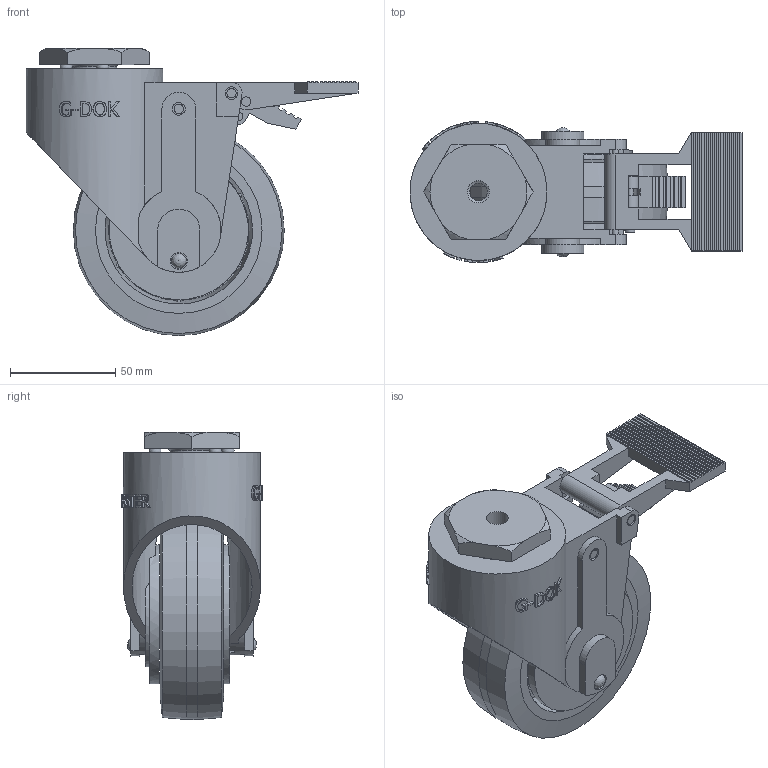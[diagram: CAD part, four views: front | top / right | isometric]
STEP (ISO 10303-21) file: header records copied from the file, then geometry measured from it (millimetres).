
FILE_DESCRIPTION((''),'2;1');
FILE_NAME('C:\Documents and Settings\Administrator\바탕 화면\2011년도\도면 및 견적서 발송\지덕 전체도면\3D도면\GDC\GDC-100-BSS\GDC-100BSS.stp','2012-02-03T09:20:18',('Administrator'),(''),'Autodesk Inventor 2009','Autodesk Inventor 2009','');
FILE_SCHEMA(('AUTOMOTIVE_DESIGN { 1 0 10303 214 1 1 1 1 }'));
Length unit declared in the file: millimetre
Products named in the file (1): GDC-100BSS
Bounding box: 157.47 x 67 x 136.2 mm (x, y, z)
Volume: 314492.9 mm3; surface area: 109874.4 mm2
Topology: 9 solids, 31 shells, 749 faces, 2119 edges, 1397 vertices
Faces by surface type: plane 431, bspline 140, cylinder 104, cone 35, sphere 33, torus 6
Full cylindrical faces by diameter (mm): 3 x10, 4 x2, 4.5 x4, 6 x4, 8 x3, 8.4 x1, 10.5 x1, 13 x6, 15.3 x2, 20 x2, 21 x1, 22 x2, 25 x1, 27 x1, 39 x1, 39.4 x1, 41 x1, 46 x1, 50 x1, 62 x1, 65 x1, 66 x2, 100 x1
Entity records: 38886 total; most frequent: CARTESIAN_POINT 20299, ORIENTED_EDGE 4042, DIRECTION 3628, EDGE_CURVE 2021, VERTEX_POINT 1377, AXIS2_PLACEMENT_3D 1336, VECTOR 956, LINE 956
